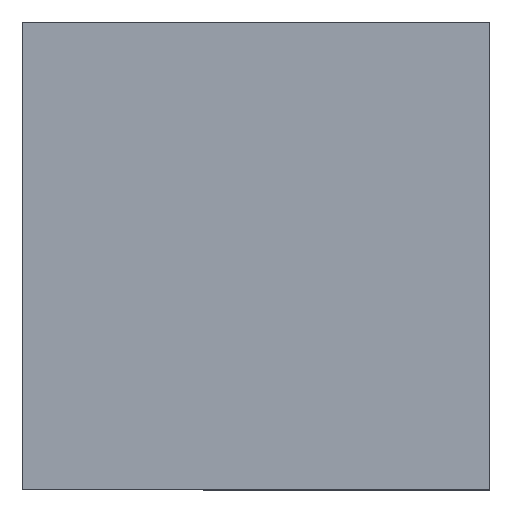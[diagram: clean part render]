
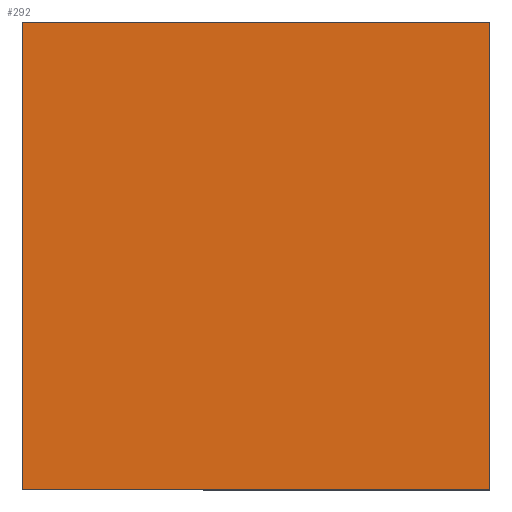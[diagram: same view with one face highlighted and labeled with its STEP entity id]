
A CAD part, top view. The second image highlights one B-rep face of the part: STEP entity #292.
In plain terms, the highlighted planar face has unit normal (0, 0, 1).
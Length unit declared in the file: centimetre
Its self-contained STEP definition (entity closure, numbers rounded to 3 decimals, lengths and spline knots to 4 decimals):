
#8 = CARTESIAN_POINT ( 'NONE',  ( 0., 0., 1000. ) ) ;
#11 = CARTESIAN_POINT ( 'NONE',  ( 1000., 1000., 1000. ) ) ;
#18 = CARTESIAN_POINT ( 'NONE',  ( 1000., 1000., 1000. ) ) ;
#24 = AXIS2_PLACEMENT_3D ( 'NONE', #263, #25, #290 ) ;
#25 = DIRECTION ( 'NONE',  ( 0., 0., 1. ) ) ;
#66 = EDGE_LOOP ( 'NONE', ( #198, #220, #218, #202 ) ) ;
#67 = EDGE_CURVE ( 'NONE', #161, #370, #188, .T. ) ;
#77 = EDGE_CURVE ( 'NONE', #176, #282, #124, .T. ) ;
#78 = EDGE_CURVE ( 'NONE', #370, #176, #177, .T. ) ;
#90 = CARTESIAN_POINT ( 'NONE',  ( 1000., 0., 1000. ) ) ;
#112 = VECTOR ( 'NONE', #226, 100. ) ;
#124 = LINE ( 'NONE', #244, #167 ) ;
#139 = DIRECTION ( 'NONE',  ( 0., 1., 0. ) ) ;
#145 = CARTESIAN_POINT ( 'NONE',  ( 0., 1000., 1000. ) ) ;
#161 = VERTEX_POINT ( 'NONE', #288 ) ;
#167 = VECTOR ( 'NONE', #227, 100. ) ;
#176 = VERTEX_POINT ( 'NONE', #18 ) ;
#177 = LINE ( 'NONE', #11, #203 ) ;
#188 = LINE ( 'NONE', #8, #222 ) ;
#198 = ORIENTED_EDGE ( 'NONE', *, *, #231, .T. ) ;
#202 = ORIENTED_EDGE ( 'NONE', *, *, #77, .T. ) ;
#203 = VECTOR ( 'NONE', #139, 100. ) ;
#205 = FACE_OUTER_BOUND ( 'NONE', #66, .T. ) ;
#218 = ORIENTED_EDGE ( 'NONE', *, *, #78, .T. ) ;
#220 = ORIENTED_EDGE ( 'NONE', *, *, #67, .T. ) ;
#222 = VECTOR ( 'NONE', #303, 100. ) ;
#226 = DIRECTION ( 'NONE',  ( 0., -1., 0. ) ) ;
#227 = DIRECTION ( 'NONE',  ( -1., 0., 0. ) ) ;
#231 = EDGE_CURVE ( 'NONE', #282, #161, #343, .T. ) ;
#244 = CARTESIAN_POINT ( 'NONE',  ( 0., 1000., 1000. ) ) ;
#263 = CARTESIAN_POINT ( 'NONE',  ( 0., 0., 1000. ) ) ;
#282 = VERTEX_POINT ( 'NONE', #145 ) ;
#288 = CARTESIAN_POINT ( 'NONE',  ( 0., 0., 1000. ) ) ;
#290 = DIRECTION ( 'NONE',  ( 1., 0., 0. ) ) ;
#292 = ADVANCED_FACE ( 'NONE', ( #205 ), #360, .T. ) ;
#303 = DIRECTION ( 'NONE',  ( 1., 0., 0. ) ) ;
#310 = CARTESIAN_POINT ( 'NONE',  ( 0., 1000., 1000. ) ) ;
#343 = LINE ( 'NONE', #310, #112 ) ;
#360 = PLANE ( 'NONE',  #24 ) ;
#370 = VERTEX_POINT ( 'NONE', #90 ) ;
